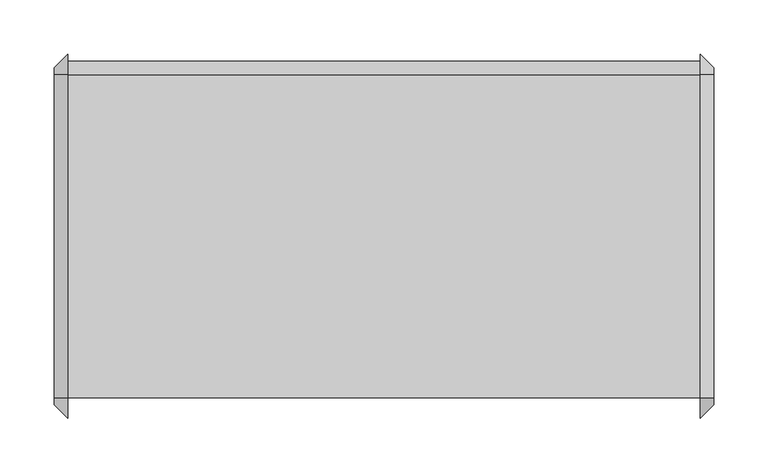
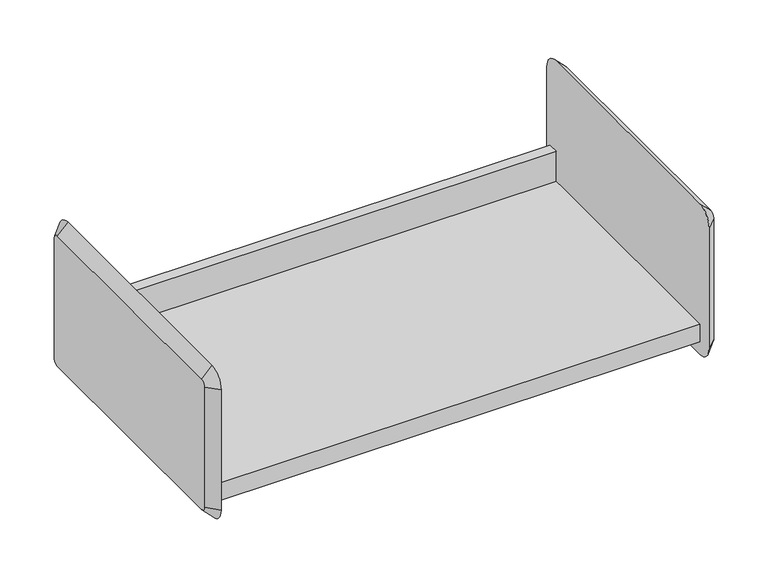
"""IFC4 building model written with IfcOpenShell, lengths in millimetres: furniture geometry."""

from ifc_helpers import new_model, si_unit, frame, origin, place, context, project, spatial, polyline, circle_curve, outline, extrude, source, transform, mapped, element, save
from ifc_brep_helpers import plane_surface, revolved_surface, advanced_brep


def furniture_561e1995(model_context):
    return source(origin(), model_context, "Body", "SolidModel", [
        extrude(outline(polyline([(-136.525, 1331.9125), (161.925, 1331.9125), (161.925, 1370.0125), (174.625, 1370.0125), (174.625, 1366.8375), (165.1, 1366.8375), (165.1, 1328.7375), (-133.35, 1328.7375), (-133.35, 1309.6875), (-136.525, 1309.6875), (-136.525, 1331.9125)])), frame((-416.0420045, 0.0, 0.0), z_axis=(1.0, 0.0, 0.0), x_axis=(0.0, 1.0, 0.0)), (0.0, 0.0, 1.0), 584.2),
        advanced_brep(
        [(180.8579955, 161.925, 1471.6125), (180.8579955, -136.525, 1471.6125), (180.8579955, -142.875, 1465.2625), (180.8579955, -142.875, 1312.8625), (180.8579955, -136.525, 1306.5125), (180.8579955, 161.925, 1306.5125), (180.8579955, 168.275, 1312.8625), (180.8579955, 168.275, 1465.2625), (168.1579955, 161.925, 1484.3125), (168.1579955, 180.975, 1465.2625), (168.1579955, 180.975, 1312.8625), (168.1579955, 161.925, 1293.8125), (168.1579955, -136.525, 1293.8125), (168.1579955, -155.575, 1312.8625), (168.1579955, -155.575, 1465.2625), (168.1579955, -136.525, 1484.3125)],
        [
            (0, 1),
            (1, 2, circle_curve(frame((180.8579955, -136.525, 1465.2625), z_axis=(1.0, 2.0730084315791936e-12, -2.1742607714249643e-12), x_axis=(2.1742640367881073e-12, 0.0, 1.0)), 6.35)),
            (2, 3),
            (3, 4, circle_curve(frame((180.8579955, -136.525, 1312.8625), z_axis=(1.0, 2.062350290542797e-12, 2.0463630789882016e-12), x_axis=(2.062316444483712e-12, -1.0, 0.0)), 6.35)),
            (4, 5),
            (5, 6, circle_curve(frame((180.8579955, 161.925, 1312.8625), z_axis=(1.0, 2.088995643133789e-12, -2.1103119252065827e-12), x_axis=(-2.1103612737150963e-12, 0.0, -1.0)), 6.35)),
            (6, 7),
            (7, 0, circle_curve(frame((180.8579955, 161.925, 1465.2625), z_axis=(1.0, 2.075672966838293e-12, 1.9824142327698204e-12), x_axis=(-2.075662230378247e-12, 1.0, 0.0)), 6.35)),
            (8, 9, circle_curve(frame((168.1579955, 161.925, 1465.2625), z_axis=(-1.0, -2.075672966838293e-12, -1.9824142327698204e-12), x_axis=(-2.075662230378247e-12, 1.0, 0.0)), 19.05)),
            (9, 10),
            (10, 11, circle_curve(frame((168.1579955, 161.925, 1312.8625), z_axis=(-1.0, -2.088995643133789e-12, 2.1103119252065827e-12), x_axis=(-2.1103612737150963e-12, 0.0, -1.0)), 19.05)),
            (11, 12),
            (12, 13, circle_curve(frame((168.1579955, -136.525, 1312.8625), z_axis=(-1.0, -2.062350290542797e-12, -2.0463630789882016e-12), x_axis=(2.062316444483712e-12, -1.0, 0.0)), 19.05)),
            (13, 14),
            (14, 15, circle_curve(frame((168.1579955, -136.525, 1465.2625), z_axis=(-1.0, -2.0730084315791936e-12, 2.1742607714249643e-12), x_axis=(2.1742640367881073e-12, 0.0, 1.0)), 19.05)),
            (15, 8),
            (15, 1),
            (0, 8),
            (14, 2),
            (13, 3),
            (12, 4),
            (11, 5),
            (10, 6),
            (9, 7),
        ],
        [
            plane_surface(frame((180.8579955, 12.7, 1389.0625), z_axis=(1.0, 0.0, 0.0), x_axis=(0.0, -1.0, 0.0))),
            plane_surface(frame((168.1579955, 12.7, 1389.0625), z_axis=(-1.0, 0.0, 0.0), x_axis=(0.0, -1.0, 0.0))),
            plane_surface(frame((168.1579955, 12.7, 1484.3125), z_axis=(0.7071067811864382, 0.0, 0.7071067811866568), x_axis=(0.0, -1.0, 0.0))),
            revolved_surface(polyline([(180.8579955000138, -136.525, 1471.6124999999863), (168.1579955, -136.525, 1484.3125)]), (187.2079955, -136.525, 1465.2625), (-1.0, -2.0730084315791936e-12, 2.1742607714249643e-12)),
            plane_surface(frame((168.1579955, -155.575, 1389.0625), z_axis=(0.707106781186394, -0.7071067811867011, 0.0), x_axis=(0.0, 0.0, -1.0))),
            revolved_surface(polyline([(180.8579955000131, -142.87499999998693, 1312.8625), (168.1579955, -155.575, 1312.8625)]), (187.2079955, -136.525, 1312.8625), (-1.0, -2.062350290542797e-12, -2.0463630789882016e-12)),
            plane_surface(frame((168.1579955, 12.7, 1293.8125), z_axis=(0.7071067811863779, 0.0, -0.7071067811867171), x_axis=(0.0, 1.0, 0.0))),
            revolved_surface(polyline([(180.8579955, 161.925, 1306.5125), (168.15799549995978, 161.925, 1293.8124999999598)]), (187.2079955, 161.925, 1312.8625), (-1.0, -2.088995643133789e-12, 2.1103119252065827e-12)),
            plane_surface(frame((168.1579955, 180.975, 1389.0625), z_axis=(0.707106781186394, 0.7071067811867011, 0.0), x_axis=(0.0, 0.0, 1.0))),
            revolved_surface(polyline([(180.8579955, 168.27500000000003, 1465.2625), (168.15799549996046, 180.97500000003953, 1465.2625)]), (187.2079955, 161.925, 1465.2625), (-1.0, -2.075672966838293e-12, -1.9824142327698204e-12)),
        ],
        [
            (0, [[1, 2, 3, 4, 5, 6, 7, 8]]),
            (1, [[9, 10, 11, 12, 13, 14, 15, 16]]),
            (2, [[-16, 17, -1, 18]]),
            (3, [[-15, 19, -2, -17]]),
            (4, [[-14, 20, -3, -19]]),
            (5, [[-13, 21, -4, -20]]),
            (6, [[-12, 22, -5, -21]]),
            (7, [[-11, 23, -6, -22]]),
            (8, [[-10, 24, -7, -23]]),
            (9, [[-9, -18, -8, -24]]),
        ],
    ),
        advanced_brep(
        [(-428.7420045, -136.525, 1471.6125), (-428.7420045, 161.925, 1471.6125), (-428.7420045, 168.275, 1465.2625), (-428.7420045, 168.275, 1312.8625), (-428.7420045, 161.925, 1306.5125), (-428.7420045, -136.525, 1306.5125), (-428.7420045, -142.875, 1312.8625), (-428.7420045, -142.875, 1465.2625), (-416.0420045, -136.525, 1484.3125), (-416.0420045, -155.575, 1465.2625), (-416.0420045, -155.575, 1312.8625), (-416.0420045, -136.525, 1293.8125), (-416.0420045, 161.925, 1293.8125), (-416.0420045, 180.975, 1312.8625), (-416.0420045, 180.975, 1465.2625), (-416.0420045, 161.925, 1484.3125)],
        [
            (0, 1),
            (1, 2, circle_curve(frame((-428.7420045, 161.925, 1465.2625), z_axis=(-1.0, 0.0, 0.0), x_axis=(0.0, 0.0, 1.0)), 6.35)),
            (2, 3),
            (3, 4, circle_curve(frame((-428.7420045, 161.925, 1312.8625), z_axis=(-1.0, 0.0, 0.0), x_axis=(0.0, 1.0, 0.0)), 6.35)),
            (4, 5),
            (5, 6, circle_curve(frame((-428.7420045, -136.525, 1312.8625), z_axis=(-1.0, 0.0, 0.0), x_axis=(0.0, 0.0, -1.0)), 6.35)),
            (6, 7),
            (7, 0, circle_curve(frame((-428.7420045, -136.525, 1465.2625), z_axis=(-1.0, 0.0, 0.0), x_axis=(0.0, -1.0, 0.0)), 6.35)),
            (8, 9, circle_curve(frame((-416.0420045, -136.525, 1465.2625), z_axis=(1.0, 0.0, 0.0), x_axis=(0.0, -1.0, 0.0)), 19.05)),
            (9, 10),
            (10, 11, circle_curve(frame((-416.0420045, -136.525, 1312.8625), z_axis=(1.0, 0.0, 0.0), x_axis=(0.0, 0.0, -1.0)), 19.05)),
            (11, 12),
            (12, 13, circle_curve(frame((-416.0420045, 161.925, 1312.8625), z_axis=(1.0, 0.0, 0.0), x_axis=(0.0, 1.0, 0.0)), 19.05)),
            (13, 14),
            (14, 15, circle_curve(frame((-416.0420045, 161.925, 1465.2625), z_axis=(1.0, 0.0, 0.0), x_axis=(0.0, 0.0, 1.0)), 19.05)),
            (15, 8),
            (15, 1),
            (0, 8),
            (14, 2),
            (13, 3),
            (12, 4),
            (11, 5),
            (10, 6),
            (9, 7),
        ],
        [
            plane_surface(frame((-428.7420045, 12.7, 1389.0625), z_axis=(-1.0, 0.0, 0.0), x_axis=(0.0, -1.0, 0.0))),
            plane_surface(frame((-416.0420045, 12.7, 1389.0625), z_axis=(1.0, 0.0, 0.0), x_axis=(0.0, -1.0, 0.0))),
            plane_surface(frame((-416.0420045, 12.7, 1484.3125), z_axis=(-0.7071067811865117, 0.0, 0.7071067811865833), x_axis=(0.0, 1.0, 0.0))),
            revolved_surface(polyline([(-428.7420045, 161.925, 1471.6125), (-416.0420045, 161.925, 1484.3125)]), (-435.0920045, 161.925, 1465.2625), (1.0, 0.0, 0.0)),
            plane_surface(frame((-416.0420045, 180.975, 1389.0625), z_axis=(-0.7071067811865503, 0.7071067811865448, 0.0), x_axis=(0.0, 0.0, -1.0))),
            revolved_surface(polyline([(-428.7420045, 168.27499999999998, 1312.8625), (-416.0420045, 180.975, 1312.8625)]), (-435.0920045, 161.925, 1312.8625), (1.0, 0.0, 0.0)),
            plane_surface(frame((-416.0420045, 12.7, 1293.8125), z_axis=(-0.707106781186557, 0.0, -0.7071067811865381), x_axis=(0.0, -1.0, 0.0))),
            revolved_surface(polyline([(-428.7420045, -136.525, 1306.5125), (-416.0420045, -136.525, 1293.8125)]), (-435.0920045, -136.525, 1312.8625), (1.0, 0.0, 0.0)),
            plane_surface(frame((-416.0420045, -155.575, 1389.0625), z_axis=(-0.7071067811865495, -0.7071067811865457, 0.0), x_axis=(0.0, 0.0, 1.0))),
            revolved_surface(polyline([(-428.7420045, -142.87499999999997, 1465.2625), (-416.0420045, -155.575, 1465.2625)]), (-435.0920045, -136.525, 1465.2625), (1.0, 0.0, 0.0)),
        ],
        [
            (0, [[1, 2, 3, 4, 5, 6, 7, 8]]),
            (1, [[9, 10, 11, 12, 13, 14, 15, 16]]),
            (2, [[-16, 17, -1, 18]]),
            (3, [[-15, 19, -2, -17]]),
            (4, [[-14, 20, -3, -19]]),
            (5, [[-13, 21, -4, -20]]),
            (6, [[-12, 22, -5, -21]]),
            (7, [[-11, 23, -6, -22]]),
            (8, [[-10, 24, -7, -23]]),
            (9, [[-9, -18, -8, -24]]),
        ],
    ),
    ])


if __name__ == "__main__":
    model = new_model("IFC4")
    model_context = context("Model", 3, world=origin())
    ifc_project = project(units=[si_unit("LENGTHUNIT", "METRE", prefix="MILLI")], contexts=[model_context])
    site = spatial("IfcSite", under=ifc_project)
    building = spatial("IfcBuilding", under=site)
    placement = place(None, origin())
    furniture_shape = furniture_561e1995(model_context)
    element("IfcFurniture", 1, ObjectType="HermanMiller_ActionOffice_A3220_B-StyleStorageDisplay : Shelf 13\"D x 24\"W", at=placement, inside=building, context=model_context, shape_type="MappedRepresentation", body=[
        mapped(furniture_shape, transform((0.0, 0.0, 0.0), x_axis=(1.0, 0.0, 0.0), y_axis=(0.0, 1.0, 0.0), z_axis=(0.0, 0.0, 1.0))),
    ])
    save(model, "model.ifc")
